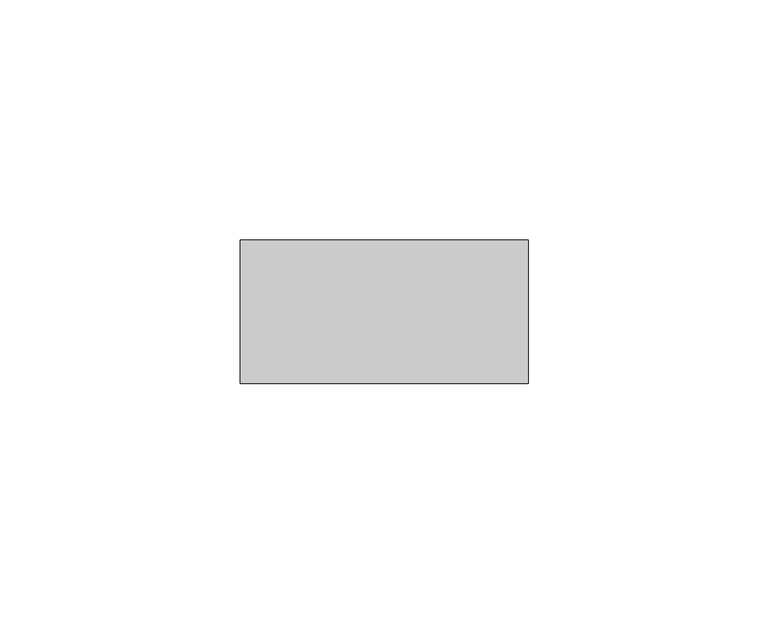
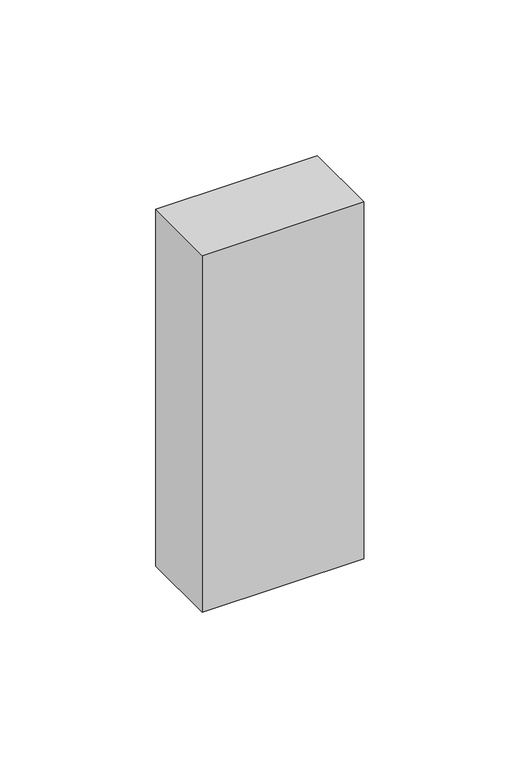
"""IFC4 building model written with IfcOpenShell, lengths in millimetres: proxy geometry, Zutrittskontrollanlage : Zutrittskontrollanlage."""

from ifc_helpers import new_model, si_unit, frame, origin, place, context, project, spatial, polyline, outline, extrude, source, transform, mapped, element, save


def electrical_fixtures_34297ac7(model_context):
    return source(origin(), model_context, "Body", "SweptSolid", [
        extrude(outline(polyline([(60.0, 0.0), (60.0, -30.0), (0.0, -30.0), (0.0, 0.0), (60.0, 0.0)])), frame((0.0, 0.0, 980.0), z_axis=(0.0, 0.0, 1.0), x_axis=(1.0, 0.0, 0.0)), (0.0, 0.0, 1.0), 140.0),
    ])


if __name__ == "__main__":
    model = new_model("IFC4")
    model_context = context("Model", 3, world=origin())
    ifc_project = project(units=[si_unit("LENGTHUNIT", "METRE", prefix="MILLI")], contexts=[model_context])
    site = spatial("IfcSite", under=ifc_project)
    building = spatial("IfcBuilding", under=site)
    placement = place(None, origin())
    electrical_fixtures_shape = electrical_fixtures_34297ac7(model_context)
    element("IfcBuildingElementProxy", 1, Name="Zutrittskontrollanlage : Zutrittskontrollanlage", ObjectType="Zutrittskontrollanlage : Zutrittskontrollanlage", at=placement, inside=building, context=model_context, shape_type="MappedRepresentation", body=[
        mapped(electrical_fixtures_shape, transform((0.0, 0.0, 0.0), x_axis=(1.0, 0.0, 0.0), y_axis=(0.0, 1.0, 0.0), z_axis=(0.0, 0.0, 1.0))),
    ])
    save(model, "model.ifc")
